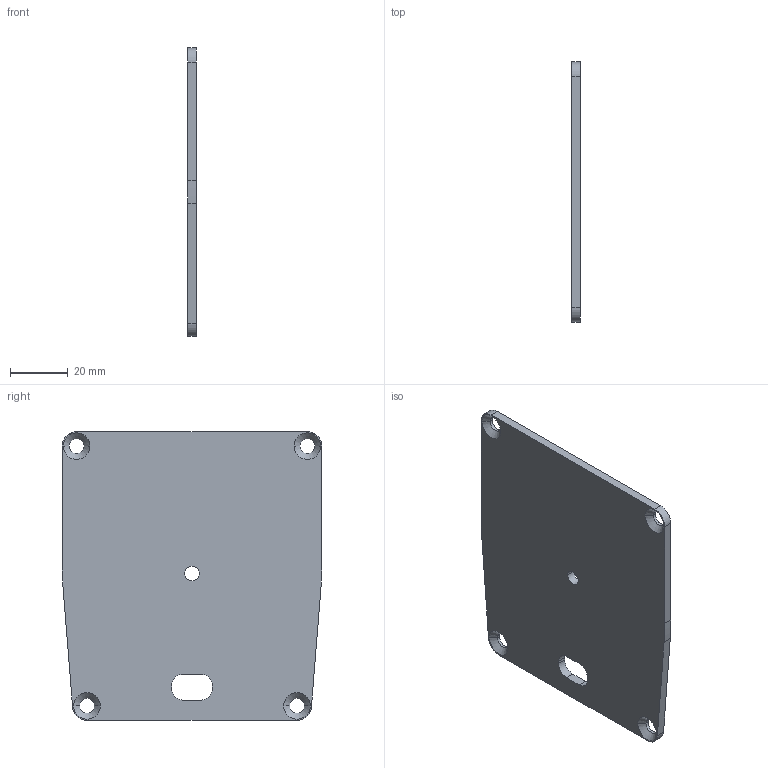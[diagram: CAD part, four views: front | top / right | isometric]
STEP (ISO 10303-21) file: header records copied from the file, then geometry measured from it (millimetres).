
FILE_DESCRIPTION(('CATIA V5 STEP Exchange','CAx-IF Rec.Pracs.--- Model Styling and Organization---1.4--- 2014-01-23'),'2;1');
FILE_NAME('D:\모델\플래그\플래그\일반\case2.stp','2026-07-14T16:03:58+00:00',('none'),('none'),'CATIA Version 5-6 Release 2018','CATIA V5 STEP AP214','none');
FILE_SCHEMA(('AUTOMOTIVE_DESIGN { 1 0 10303 214 1 1 1 1 }'));
Length unit declared in the file: millimetre
Products named in the file (1): Part1
Bounding box: 3 x 90 x 100 mm (x, y, z)
Volume: 25522.8 mm3; surface area: 18523.8 mm2
Topology: 1 solids, 1 shells, 40 faces, 106 edges, 68 vertices
Faces by surface type: cylinder 20, plane 12, cone 8
Entity records: 1226 total; most frequent: ORIENTED_EDGE 212, CARTESIAN_POINT 210, DIRECTION 176, EDGE_CURVE 106, AXIS2_PLACEMENT_3D 84, VERTEX_POINT 68, VECTOR 58, LINE 58
